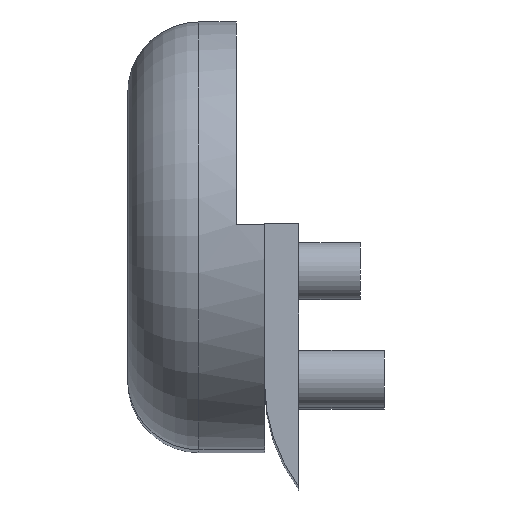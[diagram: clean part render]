
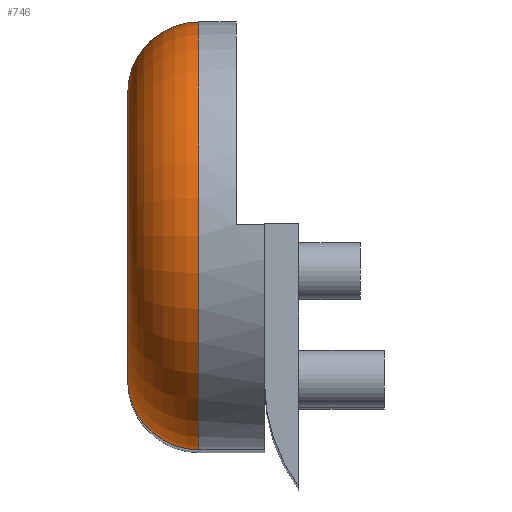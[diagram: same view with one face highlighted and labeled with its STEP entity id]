
A CAD part, top view. The second image highlights one B-rep face of the part: STEP entity #746.
In plain terms, the highlighted toroidal (fillet/blend) face has major radius 5 mm and minor radius 2.5 mm.
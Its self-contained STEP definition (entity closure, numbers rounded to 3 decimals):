
#40 = VERTEX_POINT('',#41);
#41 = CARTESIAN_POINT('',(-44.3,-7.5,28.5));
#50 = CYLINDRICAL_SURFACE('',#51,7.5);
#51 = AXIS2_PLACEMENT_3D('',#52,#53,#54);
#52 = CARTESIAN_POINT('',(-46.8,0.,28.5));
#53 = DIRECTION('',(-1.,0.,0.));
#54 = DIRECTION('',(0.,0.,-1.));
#197 = VERTEX_POINT('',#198);
#198 = CARTESIAN_POINT('',(-44.3,7.5,28.5));
#224 = EDGE_CURVE('',#197,#40,#225,.T.);
#225 = SURFACE_CURVE('',#226,(#231,#238),.PCURVE_S1.);
#226 = CIRCLE('',#227,7.5);
#227 = AXIS2_PLACEMENT_3D('',#228,#229,#230);
#228 = CARTESIAN_POINT('',(-44.3,0.,28.5));
#229 = DIRECTION('',(1.,0.,0.));
#230 = DIRECTION('',(-0.,1.,0.));
#231 = PCURVE('',#50,#232);
#232 = DEFINITIONAL_REPRESENTATION('',(#233),#237);
#233 = LINE('',#234,#235);
#234 = CARTESIAN_POINT('',(4.712,-2.5));
#235 = VECTOR('',#236,1.);
#236 = DIRECTION('',(-1.,0.));
#237 = ( GEOMETRIC_REPRESENTATION_CONTEXT(2) 
PARAMETRIC_REPRESENTATION_CONTEXT() REPRESENTATION_CONTEXT('2D SPACE',''
  ) );
#238 = PCURVE('',#239,#244);
#239 = TOROIDAL_SURFACE('',#240,5.,2.5);
#240 = AXIS2_PLACEMENT_3D('',#241,#242,#243);
#241 = CARTESIAN_POINT('',(-44.3,0.,28.5));
#242 = DIRECTION('',(-1.,0.,0.));
#243 = DIRECTION('',(0.,1.,0.));
#244 = DEFINITIONAL_REPRESENTATION('',(#245),#249);
#245 = LINE('',#246,#247);
#246 = CARTESIAN_POINT('',(6.283,0.));
#247 = VECTOR('',#248,1.);
#248 = DIRECTION('',(-1.,0.));
#249 = ( GEOMETRIC_REPRESENTATION_CONTEXT(2) 
PARAMETRIC_REPRESENTATION_CONTEXT() REPRESENTATION_CONTEXT('2D SPACE',''
  ) );
#271 = CYLINDRICAL_SURFACE('',#272,2.5);
#272 = AXIS2_PLACEMENT_3D('',#273,#274,#275);
#273 = CARTESIAN_POINT('',(-44.3,-5.,28.5));
#274 = DIRECTION('',(0.,0.,-1.));
#275 = DIRECTION('',(0.,-1.,0.));
#712 = CYLINDRICAL_SURFACE('',#713,2.5);
#713 = AXIS2_PLACEMENT_3D('',#714,#715,#716);
#714 = CARTESIAN_POINT('',(-44.3,5.,-28.5));
#715 = DIRECTION('',(0.,0.,1.));
#716 = DIRECTION('',(0.,1.,0.));
#746 = ADVANCED_FACE('',(#747),#239,.T.);
#747 = FACE_BOUND('',#748,.T.);
#748 = EDGE_LOOP('',(#749,#784,#804,#805));
#749 = ORIENTED_EDGE('',*,*,#750,.T.);
#750 = EDGE_CURVE('',#751,#753,#755,.T.);
#751 = VERTEX_POINT('',#752);
#752 = CARTESIAN_POINT('',(-46.8,5.,28.5));
#753 = VERTEX_POINT('',#754);
#754 = CARTESIAN_POINT('',(-46.8,-5.,28.5));
#755 = SURFACE_CURVE('',#756,(#761,#768),.PCURVE_S1.);
#756 = CIRCLE('',#757,5.);
#757 = AXIS2_PLACEMENT_3D('',#758,#759,#760);
#758 = CARTESIAN_POINT('',(-46.8,0.,28.5));
#759 = DIRECTION('',(1.,0.,0.));
#760 = DIRECTION('',(-0.,1.,0.));
#761 = PCURVE('',#239,#762);
#762 = DEFINITIONAL_REPRESENTATION('',(#763),#767);
#763 = LINE('',#764,#765);
#764 = CARTESIAN_POINT('',(6.283,1.571));
#765 = VECTOR('',#766,1.);
#766 = DIRECTION('',(-1.,0.));
#767 = ( GEOMETRIC_REPRESENTATION_CONTEXT(2) 
PARAMETRIC_REPRESENTATION_CONTEXT() REPRESENTATION_CONTEXT('2D SPACE',''
  ) );
#768 = PCURVE('',#769,#774);
#769 = PLANE('',#770);
#770 = AXIS2_PLACEMENT_3D('',#771,#772,#773);
#771 = CARTESIAN_POINT('',(-46.8,0.,0.));
#772 = DIRECTION('',(-1.,0.,0.));
#773 = DIRECTION('',(0.,0.,1.));
#774 = DEFINITIONAL_REPRESENTATION('',(#775),#783);
#775 = ( BOUNDED_CURVE() B_SPLINE_CURVE(2,(#776,#777,#778,#779,#780,#781
,#782),.UNSPECIFIED.,.T.,.F.) B_SPLINE_CURVE_WITH_KNOTS((1,2,2,2,2,1),(
    -2.094,0.,2.094,4.189,6.283,
8.378),.UNSPECIFIED.) CURVE() GEOMETRIC_REPRESENTATION_ITEM() 
RATIONAL_B_SPLINE_CURVE((1.,0.5,1.,0.5,1.,0.5,1.)) REPRESENTATION_ITEM(
  '') );
#776 = CARTESIAN_POINT('',(28.5,5.));
#777 = CARTESIAN_POINT('',(37.16,5.));
#778 = CARTESIAN_POINT('',(32.83,-2.5));
#779 = CARTESIAN_POINT('',(28.5,-10.));
#780 = CARTESIAN_POINT('',(24.17,-2.5));
#781 = CARTESIAN_POINT('',(19.84,5.));
#782 = CARTESIAN_POINT('',(28.5,5.));
#783 = ( GEOMETRIC_REPRESENTATION_CONTEXT(2) 
PARAMETRIC_REPRESENTATION_CONTEXT() REPRESENTATION_CONTEXT('2D SPACE',''
  ) );
#784 = ORIENTED_EDGE('',*,*,#785,.F.);
#785 = EDGE_CURVE('',#40,#753,#786,.T.);
#786 = SURFACE_CURVE('',#787,(#792,#798),.PCURVE_S1.);
#787 = CIRCLE('',#788,2.5);
#788 = AXIS2_PLACEMENT_3D('',#789,#790,#791);
#789 = CARTESIAN_POINT('',(-44.3,-5.,28.5));
#790 = DIRECTION('',(-0.,0.,-1.));
#791 = DIRECTION('',(0.,-1.,0.));
#792 = PCURVE('',#239,#793);
#793 = DEFINITIONAL_REPRESENTATION('',(#794),#797);
#794 = B_SPLINE_CURVE_WITH_KNOTS('',1,(#795,#796),.UNSPECIFIED.,.F.,.F.,
  (2,2),(0.,1.571),.PIECEWISE_BEZIER_KNOTS.);
#795 = CARTESIAN_POINT('',(3.142,0.));
#796 = CARTESIAN_POINT('',(3.142,1.571));
#797 = ( GEOMETRIC_REPRESENTATION_CONTEXT(2) 
PARAMETRIC_REPRESENTATION_CONTEXT() REPRESENTATION_CONTEXT('2D SPACE',''
  ) );
#798 = PCURVE('',#271,#799);
#799 = DEFINITIONAL_REPRESENTATION('',(#800),#803);
#800 = B_SPLINE_CURVE_WITH_KNOTS('',1,(#801,#802),.UNSPECIFIED.,.F.,.F.,
  (2,2),(0.,1.571),.PIECEWISE_BEZIER_KNOTS.);
#801 = CARTESIAN_POINT('',(0.,0.));
#802 = CARTESIAN_POINT('',(1.571,0.));
#803 = ( GEOMETRIC_REPRESENTATION_CONTEXT(2) 
PARAMETRIC_REPRESENTATION_CONTEXT() REPRESENTATION_CONTEXT('2D SPACE',''
  ) );
#804 = ORIENTED_EDGE('',*,*,#224,.F.);
#805 = ORIENTED_EDGE('',*,*,#806,.T.);
#806 = EDGE_CURVE('',#197,#751,#807,.T.);
#807 = SURFACE_CURVE('',#808,(#813,#819),.PCURVE_S1.);
#808 = CIRCLE('',#809,2.5);
#809 = AXIS2_PLACEMENT_3D('',#810,#811,#812);
#810 = CARTESIAN_POINT('',(-44.3,5.,28.5));
#811 = DIRECTION('',(0.,-0.,1.));
#812 = DIRECTION('',(0.,1.,0.));
#813 = PCURVE('',#239,#814);
#814 = DEFINITIONAL_REPRESENTATION('',(#815),#818);
#815 = B_SPLINE_CURVE_WITH_KNOTS('',1,(#816,#817),.UNSPECIFIED.,.F.,.F.,
  (2,2),(0.,1.571),.PIECEWISE_BEZIER_KNOTS.);
#816 = CARTESIAN_POINT('',(6.283,0.));
#817 = CARTESIAN_POINT('',(6.283,1.571));
#818 = ( GEOMETRIC_REPRESENTATION_CONTEXT(2) 
PARAMETRIC_REPRESENTATION_CONTEXT() REPRESENTATION_CONTEXT('2D SPACE',''
  ) );
#819 = PCURVE('',#712,#820);
#820 = DEFINITIONAL_REPRESENTATION('',(#821),#824);
#821 = B_SPLINE_CURVE_WITH_KNOTS('',1,(#822,#823),.UNSPECIFIED.,.F.,.F.,
  (2,2),(0.,1.571),.PIECEWISE_BEZIER_KNOTS.);
#822 = CARTESIAN_POINT('',(0.,57.));
#823 = CARTESIAN_POINT('',(1.571,57.));
#824 = ( GEOMETRIC_REPRESENTATION_CONTEXT(2) 
PARAMETRIC_REPRESENTATION_CONTEXT() REPRESENTATION_CONTEXT('2D SPACE',''
  ) );
